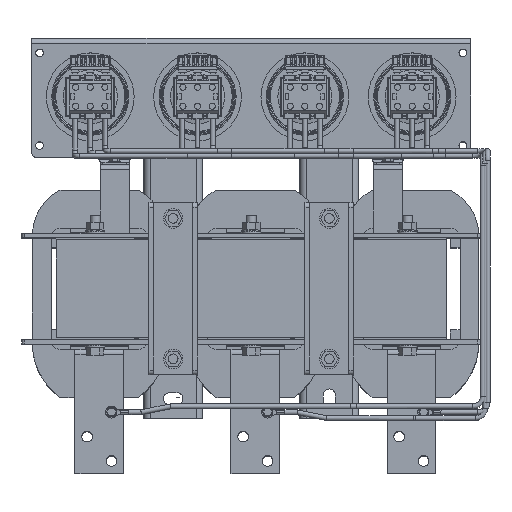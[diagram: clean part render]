
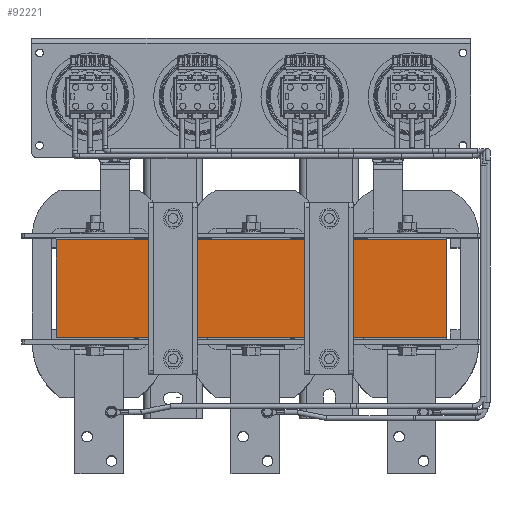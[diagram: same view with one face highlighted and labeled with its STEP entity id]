
A CAD part, top view. The second image highlights one B-rep face of the part: STEP entity #92221.
In plain terms, the highlighted planar face has unit normal (0, 0, 1).
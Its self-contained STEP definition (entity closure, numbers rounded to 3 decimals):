
#1220 = ORIENTED_EDGE ( 'NONE', *, *, #63347, .T. ) ;
#1254 = AXIS2_PLACEMENT_3D ( 'NONE', #46602, #80412, #99266 ) ;
#6102 = CARTESIAN_POINT ( 'NONE',  ( 0., -100., 480. ) ) ;
#7580 = ORIENTED_EDGE ( 'NONE', *, *, #41651, .F. ) ;
#13543 = DIRECTION ( 'NONE',  ( 0., 1., 0. ) ) ;
#14456 = CARTESIAN_POINT ( 'NONE',  ( 200., 0., 480. ) ) ;
#20895 = EDGE_LOOP ( 'NONE', ( #7580, #106292, #1220, #49543 ) ) ;
#21623 = CARTESIAN_POINT ( 'NONE',  ( -200., -100., 480. ) ) ;
#26348 = VECTOR ( 'NONE', #28725, 1000. ) ;
#28725 = DIRECTION ( 'NONE',  ( -1., 0., 0. ) ) ;
#30168 = CARTESIAN_POINT ( 'NONE',  ( -200., 2., 480. ) ) ;
#34519 = VECTOR ( 'NONE', #84347, 1000. ) ;
#34853 = VECTOR ( 'NONE', #13543, 1000. ) ;
#41148 = CARTESIAN_POINT ( 'NONE',  ( -200., 0., 480. ) ) ;
#41651 = EDGE_CURVE ( 'NONE', #84659, #97154, #90589, .T. ) ;
#41660 = EDGE_CURVE ( 'NONE', #84659, #65254, #107617, .T. ) ;
#44124 = CARTESIAN_POINT ( 'NONE',  ( 200., -100., 480. ) ) ;
#46602 = CARTESIAN_POINT ( 'NONE',  ( -200., 2., 480. ) ) ;
#48096 = VERTEX_POINT ( 'NONE', #41148 ) ;
#49543 = ORIENTED_EDGE ( 'NONE', *, *, #75615, .F. ) ;
#63347 = EDGE_CURVE ( 'NONE', #65254, #48096, #70925, .T. ) ;
#65254 = VERTEX_POINT ( 'NONE', #14456 ) ;
#67141 = CARTESIAN_POINT ( 'NONE',  ( 200., 2., 480. ) ) ;
#68151 = VECTOR ( 'NONE', #75471, 1000. ) ;
#70925 = LINE ( 'NONE', #104741, #26348 ) ;
#75471 = DIRECTION ( 'NONE',  ( -1., 0., 0. ) ) ;
#75615 = EDGE_CURVE ( 'NONE', #97154, #48096, #106698, .T. ) ;
#80412 = DIRECTION ( 'NONE',  ( 0., 0., 1. ) ) ;
#84347 = DIRECTION ( 'NONE',  ( 0., 1., 0. ) ) ;
#84659 = VERTEX_POINT ( 'NONE', #44124 ) ;
#90589 = LINE ( 'NONE', #6102, #68151 ) ;
#92221 = ADVANCED_FACE ( 'NONE', ( #98718 ), #105355, .T. ) ;
#97154 = VERTEX_POINT ( 'NONE', #21623 ) ;
#98718 = FACE_OUTER_BOUND ( 'NONE', #20895, .T. ) ;
#99266 = DIRECTION ( 'NONE',  ( 1., 0., 0. ) ) ;
#104741 = CARTESIAN_POINT ( 'NONE',  ( -200., 0., 480. ) ) ;
#105355 = PLANE ( 'NONE',  #1254 ) ;
#106292 = ORIENTED_EDGE ( 'NONE', *, *, #41660, .T. ) ;
#106698 = LINE ( 'NONE', #30168, #34853 ) ;
#107617 = LINE ( 'NONE', #67141, #34519 ) ;
